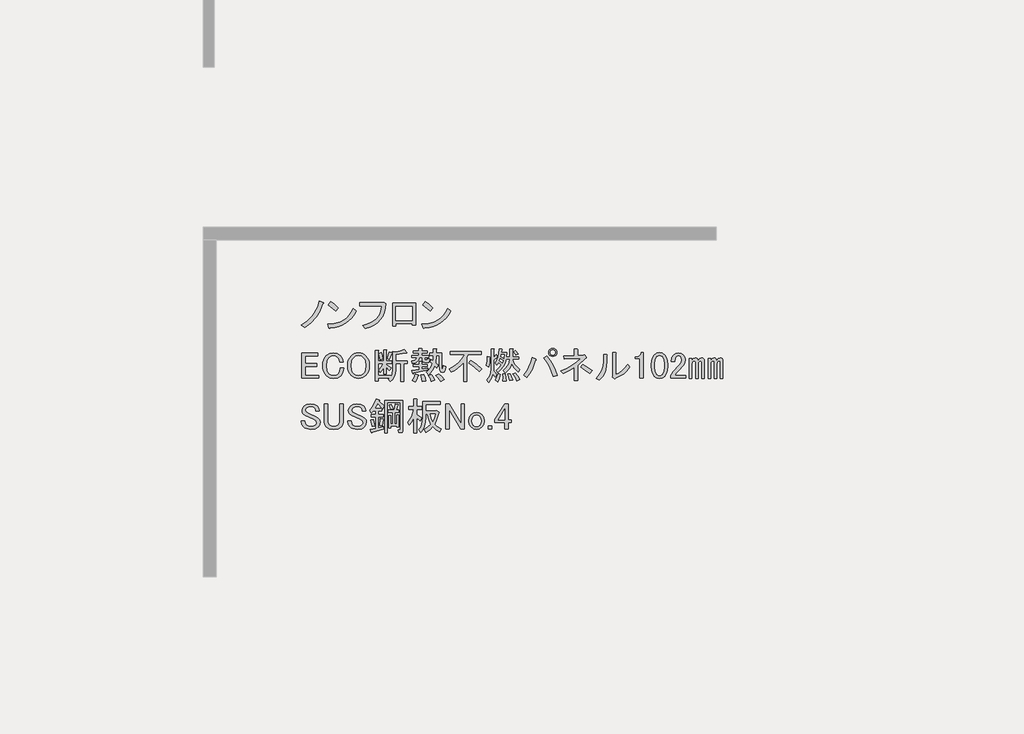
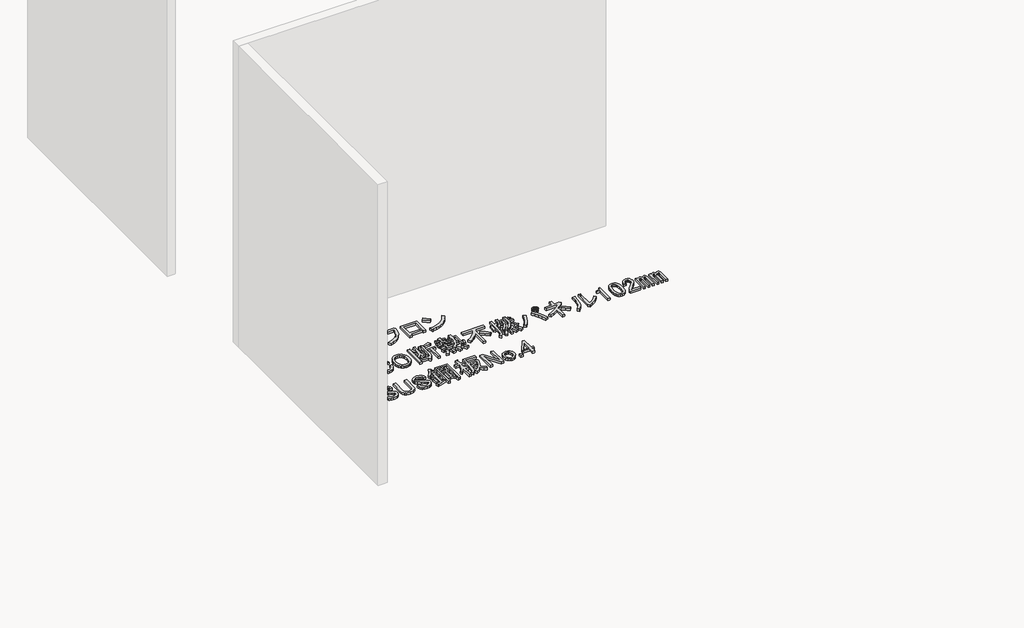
# One storey, part 62 of 117: 1 proxy.
"""IFC4 building model written with IfcOpenShell, lengths in millimetres."""

from ifc_helpers import new_model, si_unit, frame, origin, place, context, project, spatial, polyline, outline, extrude, element, save

model = new_model("IFC4")

# Units and contexts
model_context = context("Model", 3, world=origin())
ifc_project = project(units=[si_unit("LENGTHUNIT", "METRE", prefix="MILLI")], contexts=[model_context])

# Site, building, storey
site = spatial("IfcSite", under=ifc_project)
building = spatial("IfcBuilding", under=site)
storey = spatial("IfcBuildingStorey", under=building, Name="レベル 1", Elevation=500.0)

# Proxy
placement = place(None, origin())
element("IfcBuildingElementProxy", 1, Name="200㎜\u3000MS Pゴシック", ObjectType="200㎜\u3000MS Pゴシック", at=placement, inside=storey, context=model_context, shape_type="SweptSolid", body=[
    extrude(outline(polyline([(48940.1706985, -4603.5496882), (48914.5952502, -4663.3215225), (48886.146156, -4709.2998566), (48844.4782907, -4754.7034615), (48795.3389462, -4792.060858), (48767.7519457, -4770.2211493), (48815.4544673, -4739.7605029), (48855.1107805, -4701.2536481), (48872.4963381, -4677.3305462), (48887.8703435, -4649.2406577), (48901.2327969, -4616.9839827), (48912.5836981, -4580.5605212), (48943.6190736, -4594.3540214), (48946.7800841, -4598.9518548), (48940.1706985, -4603.5496882)])), frame((0.0, 0.0, 500.0), z_axis=(0.0, 0.0, 1.0), x_axis=(1.0, 0.0, 0.0)), (0.0, 0.0, 1.0), 25.0),
    extrude(outline(polyline([(49039.8977052, -4658.7236891), (48981.2753292, -4611.5958967), (49000.8161212, -4587.4572713), (49028.1157571, -4607.2854279), (49061.7374138, -4636.8839804), (49039.8977052, -4658.7236891)])), frame((0.0, 0.0, 500.0), z_axis=(0.0, 0.0, 1.0), x_axis=(1.0, 0.0, 0.0)), (0.0, 0.0, 1.0), 25.0),
    extrude(outline(polyline([(49201.9713328, -4658.7236891), (49185.447869, -4688.465924), (49166.3381239, -4714.4724192), (49144.6420975, -4736.7431748), (49120.3597898, -4755.2781907), (49093.4912008, -4770.077467), (49064.0363306, -4781.1410036), (49031.995179, -4788.4688006), (48997.3677461, -4792.060858), (48991.6204544, -4800.1070664), (48985.8731626, -4794.3597747), (48976.6774958, -4764.4738575), (49012.5082679, -4761.7977748), (49045.2857912, -4755.4937141), (49075.0100658, -4745.5616756), (49101.6810916, -4732.0016591), (49125.2988687, -4714.8136646), (49145.863397, -4693.9976923), (49163.3746766, -4669.553742), (49177.8327074, -4641.4818138), (49201.9713328, -4658.7236891)])), frame((0.0, 0.0, 500.0), z_axis=(0.0, 0.0, 1.0), x_axis=(1.0, 0.0, 0.0)), (0.0, 0.0, 1.0), 25.0),
    extrude(outline(polyline([(49252.7314136, -4773.6695243), (49286.514713, -4763.9889298), (49316.0234641, -4751.6142922), (49341.257667, -4736.5456116), (49362.2173217, -4718.782888), (49378.902428, -4698.3261214), (49391.3129862, -4675.1753118), (49399.4489961, -4649.3304591), (49403.3104577, -4620.7915635), (49230.8917049, -4620.7915635), (49230.8917049, -4595.5034798), (49405.6093744, -4595.5034798), (49421.7017914, -4592.0551047), (49434.3458332, -4603.5496882), (49430.825617, -4640.0449909), (49422.5638851, -4673.0919185), (49409.5606375, -4702.6904711), (49391.8158742, -4728.8406486), (49369.3295952, -4751.542451), (49342.1018005, -4770.7958784), (49310.1324901, -4786.6009308), (49273.421664, -4798.9576081), (49252.7314136, -4773.6695243)])), frame((0.0, 0.0, 500.0), z_axis=(0.0, 0.0, 1.0), x_axis=(1.0, 0.0, 0.0)), (0.0, 0.0, 1.0), 25.0),
    extrude(outline(polyline([(49667.455987, -4772.520066), (49641.0184449, -4772.520066), (49641.0184449, -4759.8760241), (49513.4285679, -4759.8760241), (49513.4285679, -4778.2673577), (49486.9910258, -4778.2673577), (49486.9910258, -4598.9518548), (49667.455987, -4598.9518548), (49667.455987, -4772.520066)]), holes=[polyline([(49513.4285679, -4624.2399386), (49513.4285679, -4734.5879404), (49641.0184449, -4734.5879404), (49641.0184449, -4624.2399386), (49513.4285679, -4624.2399386)])]), frame((0.0, 0.0, 500.0), z_axis=(0.0, 0.0, 1.0), x_axis=(1.0, 0.0, 0.0)), (0.0, 0.0, 1.0), 25.0),
    extrude(outline(polyline([(49943.5099049, -4658.7236891), (49926.9864411, -4688.465924), (49907.876696, -4714.4724192), (49886.1806696, -4736.7431748), (49861.8983619, -4755.2781907), (49835.0297729, -4770.077467), (49805.5749026, -4781.1410036), (49773.5337511, -4788.4688006), (49738.9063182, -4792.060858), (49733.1590264, -4800.1070664), (49727.4117347, -4794.3597747), (49718.2160679, -4764.4738575), (49754.0468399, -4761.7977748), (49786.8243633, -4755.4937141), (49816.5486378, -4745.5616756), (49843.2196637, -4732.0016591), (49866.8374407, -4714.8136646), (49887.4019691, -4693.9976923), (49904.9132486, -4669.553742), (49919.3712795, -4641.4818138), (49943.5099049, -4658.7236891)])), frame((0.0, 0.0, 500.0), z_axis=(0.0, 0.0, 1.0), x_axis=(1.0, 0.0, 0.0)), (0.0, 0.0, 1.0), 25.0),
    extrude(outline(polyline([(49781.4362772, -4658.7236891), (49722.8139013, -4611.5958967), (49742.3546933, -4587.4572713), (49769.6543291, -4607.2854279), (49803.2759859, -4636.8839804), (49781.4362772, -4658.7236891)])), frame((0.0, 0.0, 500.0), z_axis=(0.0, 0.0, 1.0), x_axis=(1.0, 0.0, 0.0)), (0.0, 0.0, 1.0), 25.0),
    extrude(outline(polyline([(48773.4992375, -4992.0551047), (48899.9396562, -4992.0551047), (48899.9396562, -5013.8948134), (48799.9367796, -5013.8948134), (48799.9367796, -5074.816106), (48893.0429061, -5074.816106), (48893.0429061, -5096.6558147), (48799.9367796, -5096.6558147), (48799.9367796, -5166.7727742), (48905.686948, -5166.7727742), (48905.686948, -5188.6124829), (48773.4992375, -5188.6124829), (48773.4992375, -4992.0551047)])), frame((0.0, 0.0, 500.0), z_axis=(0.0, 0.0, 1.0), x_axis=(1.0, 0.0, 0.0)), (0.0, 0.0, 1.0), 25.0),
    extrude(outline(polyline([(48937.7798252, -5090.908523), (48939.5758538, -5066.985421), (48944.9639399, -5045.7922827), (48953.9440832, -5027.3291079), (48966.516284, -5011.5958967), (48991.5170031, -4995.2161152), (49022.8397432, -4989.756188), (49053.5877541, -4994.641386), (49076.8642858, -5009.29698), (49092.6693381, -5032.8608762), (49098.7039944, -5062.1720642), (49071.116994, -5062.1720642), (49066.231796, -5040.9070847), (49056.1740354, -5025.3893969), (49040.9437123, -5015.0442717), (49022.8397432, -5011.5958967), (49003.2989512, -5015.6190009), (48986.0570759, -5027.6883136), (48977.0050914, -5039.3984206), (48970.5393882, -5053.8384911), (48965.3668256, -5090.908523), (48970.5393882, -5127.9785548), (48977.0050914, -5142.4186254), (48986.0570759, -5154.1287323), (49002.7242221, -5165.3359513), (49022.8397432, -5169.0716909), (49043.242629, -5165.9106804), (49058.4729521, -5156.427649), (49070.5422648, -5136.8868571), (49074.5653691, -5110.449315), (49102.1523695, -5110.449315), (49095.8303486, -5145.2204301), (49088.7899162, -5159.3731361), (49079.1632025, -5171.3706076), (49068.3151893, -5179.9197041), (49055.3119417, -5186.0262016), (49022.8397432, -5190.9113996), (48991.5170031, -5185.4514724), (48966.516284, -5169.0716909), (48953.9440832, -5153.4103209), (48944.9639399, -5135.1626695), (48939.5758538, -5114.3287369), (48937.7798252, -5090.908523)])), frame((0.0, 0.0, 500.0), z_axis=(0.0, 0.0, 1.0), x_axis=(1.0, 0.0, 0.0)), (0.0, 0.0, 1.0), 25.0),
    extrude(outline(polyline([(49133.1417667, -5089.7590646), (49134.8659542, -5066.9135799), (49140.0385168, -5046.6543764), (49148.6594544, -5028.9814543), (49160.7287671, -5013.8948134), (49173.4446501, -5003.3341648), (49187.4536738, -4995.7908443), (49202.7558381, -4991.2648521), (49219.3511431, -4989.756188), (49235.946448, -4991.2648521), (49251.2486123, -4995.7908443), (49265.257636, -5003.3341648), (49277.973519, -5013.8948134), (49290.0428317, -5028.9814543), (49298.6637694, -5046.6543764), (49303.836332, -5066.9135799), (49305.5605195, -5089.7590646), (49303.836332, -5112.6045494), (49298.6637694, -5132.8637528), (49290.0428317, -5150.536675), (49277.973519, -5165.6233159), (49265.257636, -5176.1839645), (49251.2486123, -5183.7272849), (49235.946448, -5188.2532772), (49219.3511431, -5189.7619413), (49202.7558381, -5188.2532772), (49187.4536738, -5183.7272849), (49173.4446501, -5176.1839645), (49160.7287671, -5165.6233159), (49148.6594544, -5150.536675), (49140.0385168, -5132.8637528), (49134.8659542, -5112.6045494), (49133.1417667, -5089.7590646)]), holes=[polyline([(49219.3511431, -5011.5958967), (49198.6608927, -5015.9063655), (49180.2695591, -5028.837772), (49171.7204626, -5039.9731498), (49165.6139651, -5053.8384911), (49160.7287671, -5089.7590646), (49165.6139651, -5125.6796381), (49171.7204626, -5139.5449795), (49180.2695591, -5150.6803573), (49198.6608927, -5163.6117637), (49219.3511431, -5167.9222326), (49240.0413934, -5163.6117637), (49258.432727, -5150.6803573), (49266.9818235, -5139.5449795), (49273.088321, -5125.6796381), (49277.973519, -5089.7590646), (49273.088321, -5053.8384911), (49266.9818235, -5039.9731498), (49258.432727, -5028.837772), (49240.0413934, -5015.9063655), (49219.3511431, -5011.5958967)])]), frame((0.0, 0.0, 500.0), z_axis=(0.0, 0.0, 1.0), x_axis=(1.0, 0.0, 0.0)), (0.0, 0.0, 1.0), 25.0),
    extrude(outline(polyline([(49444.3691101, -5035.7345221), (49461.6109854, -4982.8594379), (49482.3012357, -4988.6067296), (49484.0254232, -4991.7677401), (49480.002319, -4994.3540214), (49462.7604437, -5042.6312722), (49444.3691101, -5035.7345221)])), frame((0.0, 0.0, 500.0), z_axis=(0.0, 0.0, 1.0), x_axis=(1.0, 0.0, 0.0)), (0.0, 0.0, 1.0), 25.0),
    extrude(outline(polyline([(49598.3965292, -4987.4572713), (49596.6723417, -4992.0551047), (49589.2008624, -4989.756188), (49512.1871528, -5002.4002299), (49512.1871528, -5051.826939), (49604.143821, -5051.826939), (49604.143821, -5073.6666477), (49573.1084455, -5073.6666477), (49573.1084455, -5213.9005666), (49550.1192785, -5213.9005666), (49550.1192785, -5073.6666477), (49512.1871528, -5073.6666477), (49512.1871528, -5123.0933568), (49509.6008716, -5150.8958807), (49501.8420277, -5175.6810764), (49488.9106212, -5197.448944), (49470.8066522, -5216.1994833), (49453.5647769, -5196.6586914), (49463.9099021, -5187.4630245), (49374.2521506, -5187.4630245), (49374.2521506, -5209.3027332), (49351.2629836, -5209.3027332), (49351.2629836, -4970.215396), (49373.1026922, -4970.215396), (49377.9878902, -4972.5143127), (49374.2521506, -4977.1121461), (49374.2521506, -5052.9763974), (49416.7821096, -5052.9763974), (49416.7821096, -4965.6175626), (49435.1734433, -4965.6175626), (49440.0586413, -4967.9164793), (49436.3229016, -4972.5143127), (49436.3229016, -5052.9763974), (49480.002319, -5052.9763974), (49480.002319, -5071.367731), (49436.3229016, -5071.367731), (49436.3229016, -5080.5633978), (49476.5539439, -5107.0009399), (49462.7604437, -5128.8406486), (49436.3229016, -5102.4031065), (49436.3229016, -5155.2781907), (49416.7821096, -5155.2781907), (49416.7821096, -5107.0009399), (49403.5633386, -5126.8290965), (49389.1951092, -5142.6341488), (49376.5510673, -5124.2428152), (49398.390776, -5100.1041898), (49415.6326513, -5071.367731), (49374.2521506, -5071.367731), (49374.2521506, -5165.6233159), (49471.9561105, -5165.6233159), (49471.9561105, -5179.4168161), (49484.887517, -5155.2781907), (49489.1979858, -5121.9438985), (49489.1979858, -4977.1121461), (49511.0376945, -4982.8594379), (49547.2456326, -4975.3879586), (49577.7062789, -4962.1691875), (49598.3965292, -4987.4572713)])), frame((0.0, 0.0, 500.0), z_axis=(0.0, 0.0, 1.0), x_axis=(1.0, 0.0, 0.0)), (0.0, 0.0, 1.0), 25.0),
    extrude(outline(polyline([(49390.3445675, -5043.7807305), (49377.7005257, -4993.2045631), (49397.2413176, -4986.3078129), (49405.0001615, -5010.4464383), (49409.8853595, -5036.8839804), (49390.3445675, -5043.7807305)])), frame((0.0, 0.0, 500.0), z_axis=(0.0, 0.0, 1.0), x_axis=(1.0, 0.0, 0.0)), (0.0, 0.0, 1.0), 25.0),
    extrude(outline(polyline([(49734.0326148, -5159.8760241), (49744.0903754, -5187.17566), (49748.9755734, -5209.3027332), (49720.2391146, -5215.050025), (49717.6528333, -5193.4976809), (49709.8939894, -5163.3243992), (49734.0326148, -5159.8760241)])), frame((0.0, 0.0, 500.0), z_axis=(0.0, 0.0, 1.0), x_axis=(1.0, 0.0, 0.0)), (0.0, 0.0, 1.0), 25.0),
    extrude(outline(polyline([(49790.356074, -5212.7511083), (49782.022501, -5188.0377537), (49768.5163654, -5166.7727742), (49789.2066157, -5158.7265657), (49806.1611264, -5180.2789098), (49817.9430745, -5203.5554415), (49790.356074, -5212.7511083)])), frame((0.0, 0.0, 500.0), z_axis=(0.0, 0.0, 1.0), x_axis=(1.0, 0.0, 0.0)), (0.0, 0.0, 1.0), 25.0),
    extrude(outline(polyline([(49689.2037391, -5164.4738575), (49692.6521141, -5169.3590555), (49686.9048224, -5172.520066), (49677.1344264, -5198.0955143), (49666.214572, -5217.3489417), (49643.225405, -5205.8543582), (49655.8694469, -5182.290462), (49666.214572, -5155.2781907), (49689.2037391, -5164.4738575)])), frame((0.0, 0.0, 500.0), z_axis=(0.0, 0.0, 1.0), x_axis=(1.0, 0.0, 0.0)), (0.0, 0.0, 1.0), 25.0),
    extrude(outline(polyline([(49721.3885729, -5027.6883136), (49696.1004892, -5027.6883136), (49691.5026558, -5045.1457123), (49681.1575306, -5058.4363245), (49665.0651137, -5067.5601502), (49643.225405, -5072.5171893), (49638.6275716, -5052.9763974), (49663.9156553, -5044.3554597), (49671.3871346, -5037.0276627), (49675.4102388, -5027.6883136), (49639.7770299, -5027.6883136), (49639.7770299, -5009.29698), (49693.8015725, -5009.29698), (49693.8015725, -4992.0551047), (49650.1221551, -4992.0551047), (49650.1221551, -4973.6637711), (49693.8015725, -4973.6637711), (49693.8015725, -4955.2724374), (49715.6412812, -4955.2724374), (49720.5264792, -4957.5713541), (49716.7907395, -4962.1691875), (49716.7907395, -4973.6637711), (49759.3206985, -4973.6637711), (49759.3206985, -4992.0551047), (49716.7907395, -4992.0551047), (49716.7907395, -5009.29698), (49769.6658237, -5009.29698), (49769.6658237, -5027.6883136), (49740.9293649, -5027.6883136), (49740.9293649, -5040.3323555), (49742.3661878, -5045.5049181), (49746.6766567, -5047.2291056), (49757.0217818, -5047.2291056), (49760.7575215, -5044.0680951), (49760.4701569, -5034.5850637), (49780.0109489, -5036.8839804), (49777.137303, -5058.4363245), (49771.8210581, -5063.8244106), (49763.9185319, -5065.6204392), (49739.7799066, -5065.6204392), (49725.9864063, -5060.7352412), (49721.3885729, -5046.0796472), (49721.3885729, -5027.6883136)])), frame((0.0, 0.0, 500.0), z_axis=(0.0, 0.0, 1.0), x_axis=(1.0, 0.0, 0.0)), (0.0, 0.0, 1.0), 25.0),
    extrude(outline(polyline([(49852.4268251, -5010.4464383), (49830.5871164, -5010.4464383), (49825.989283, -5067.9193559), (49845.5300749, -5086.3106896), (49835.1849498, -5108.1503983), (49819.0925328, -5092.0579813), (49799.8391054, -5129.7027424), (49769.6658237, -5162.1749408), (49752.4239484, -5141.4846905), (49767.5105893, -5129.5590601), (49780.585678, -5114.4724192), (49791.6492147, -5096.2247679), (49800.7011992, -5074.816106), (49783.4593239, -5059.8731475), (49791.5055324, -5042.6312722), (49805.2990326, -5052.9763974), (49807.5979493, -5010.4464383), (49780.0109489, -5010.4464383), (49780.0109489, -4992.0551047), (49807.5979493, -4992.0551047), (49807.5979493, -4957.5713541), (49829.437658, -4957.5713541), (49834.322856, -4959.8702708), (49830.5871164, -4964.4681043), (49830.5871164, -4992.0551047), (49871.967617, -4992.0551047), (49871.967617, -5088.6096063), (49875.4159921, -5112.7482317), (49878.6488437, -5114.7597838), (49881.4506484, -5111.5987733), (49885.7611173, -5089.7590646), (49905.3019092, -5096.6558147), (49900.775917, -5123.4525626), (49892.945232, -5139.4731384), (49881.8098542, -5144.7175421), (49867.3697836, -5139.1857738), (49860.8322393, -5131.8579768), (49856.1625647, -5120.219711), (49852.4268251, -5084.0117729), (49852.4268251, -5010.4464383)])), frame((0.0, 0.0, 500.0), z_axis=(0.0, 0.0, 1.0), x_axis=(1.0, 0.0, 0.0)), (0.0, 0.0, 1.0), 25.0),
    extrude(outline(polyline([(49651.2716134, -5149.5308989), (49649.2600613, -5154.4160969), (49645.5243217, -5152.979274), (49639.7770299, -5128.8406486), (49694.9510308, -5120.7944401), (49694.9510308, -5097.8052731), (49651.2716134, -5097.8052731), (49651.2716134, -5079.4139395), (49694.9510308, -5079.4139395), (49694.9510308, -5056.4247724), (49713.3423645, -5056.4247724), (49718.2275625, -5058.7236891), (49714.4918228, -5063.3215225), (49714.4918228, -5079.4139395), (49759.3206985, -5079.4139395), (49759.3206985, -5097.8052731), (49714.4918228, -5097.8052731), (49714.4918228, -5117.3460651), (49765.0679903, -5108.1503983), (49765.0679903, -5124.2428152), (49651.2716134, -5149.5308989)])), frame((0.0, 0.0, 500.0), z_axis=(0.0, 0.0, 1.0), x_axis=(1.0, 0.0, 0.0)), (0.0, 0.0, 1.0), 25.0),
    extrude(outline(polyline([(49848.97845, -5154.1287323), (49873.6918046, -5175.3937119), (49892.6578674, -5200.1070664), (49866.2203253, -5215.050025), (49846.9668979, -5185.4514724), (49828.2881997, -5165.6233159), (49848.97845, -5154.1287323)])), frame((0.0, 0.0, 500.0), z_axis=(0.0, 0.0, 1.0), x_axis=(1.0, 0.0, 0.0)), (0.0, 0.0, 1.0), 25.0),
    extrude(outline(polyline([(50167.3784135, -5138.0363154), (50128.2968295, -5099.8168252), (50086.9163289, -5070.2182726), (50103.0087458, -5049.5280223), (50146.6881632, -5077.6897519), (50188.0686638, -5116.1966067), (50167.3784135, -5138.0363154)])), frame((0.0, 0.0, 500.0), z_axis=(0.0, 0.0, 1.0), x_axis=(1.0, 0.0, 0.0)), (0.0, 0.0, 1.0), 25.0),
    extrude(outline(polyline([(49940.9351182, -4977.1121461), (50182.3213721, -4977.1121461), (50182.3213721, -5002.4002299), (50082.3184955, -5002.4002299), (50071.9733703, -5026.5388553), (50071.9733703, -5212.7511083), (50045.5358282, -5212.7511083), (50045.5358282, -5065.6204392), (50024.7018956, -5088.8969709), (50001.2816816, -5109.2998566), (49975.2751864, -5126.8290965), (49946.6824099, -5141.4846905), (49930.589993, -5115.0471484), (49970.174465, -5094.6442626), (50003.8679629, -5069.0688143), (50031.6704868, -5038.3208034), (50053.5820367, -5002.4002299), (49940.9351182, -5002.4002299), (49940.9351182, -4977.1121461)])), frame((0.0, 0.0, 500.0), z_axis=(0.0, 0.0, 1.0), x_axis=(1.0, 0.0, 0.0)), (0.0, 0.0, 1.0), 25.0),
    extrude(outline(polyline([(50354.7401249, -5211.6016499), (50355.3148541, -5184.5893787), (50352.4412082, -5156.427649), (50371.9820002, -5155.2781907), (50378.3040211, -5181.4283682), (50378.8787503, -5209.3027332), (50354.7401249, -5211.6016499)])), frame((0.0, 0.0, 500.0), z_axis=(0.0, 0.0, 1.0), x_axis=(1.0, 0.0, 0.0)), (0.0, 0.0, 1.0), 25.0),
    extrude(outline(polyline([(50335.1993329, -5159.8760241), (50326.5783953, -5190.3366704), (50312.2101659, -5217.3489417), (50292.6693739, -5204.7048998), (50306.7502387, -5179.9915453), (50316.8079993, -5151.8298156), (50335.1993329, -5159.8760241)])), frame((0.0, 0.0, 500.0), z_axis=(0.0, 0.0, 1.0), x_axis=(1.0, 0.0, 0.0)), (0.0, 0.0, 1.0), 25.0),
    extrude(outline(polyline([(50250.1394149, -5021.9410219), (50254.7372483, -5024.2399386), (50250.1394149, -5028.837772), (50248.9899565, -5068.4940851), (50243.2426647, -5102.4031065), (50224.8513311, -5089.7590646), (50230.5986229, -5055.2753141), (50231.7480812, -5018.4926468), (50250.1394149, -5021.9410219)])), frame((0.0, 0.0, 500.0), z_axis=(0.0, 0.0, 1.0), x_axis=(1.0, 0.0, 0.0)), (0.0, 0.0, 1.0), 25.0),
    extrude(outline(polyline([(50301.8650407, -5003.5496882), (50311.0607075, -5020.7915635), (50312.4975305, -5026.8262199), (50307.6123325, -5026.5388553), (50281.1747904, -5047.2291056), (50281.1747904, -5131.1395653), (50294.9682906, -5143.4962426), (50306.4628741, -5159.8760241), (50293.8188322, -5180.5662744), (50275.4274986, -5155.2781907), (50263.6455505, -5191.1987642), (50242.0932064, -5220.7973168), (50227.1502478, -5202.4059831), (50242.2368887, -5183.6554438), (50253.0130607, -5163.0370346), (50259.478764, -5140.5507556), (50261.6339984, -5116.1966067), (50261.6339984, -4958.7208125), (50280.025332, -4958.7208125), (50284.91053, -4961.0197292), (50281.1747904, -4965.6175626), (50281.1747904, -5024.2399386), (50301.8650407, -5003.5496882)])), frame((0.0, 0.0, 500.0), z_axis=(0.0, 0.0, 1.0), x_axis=(1.0, 0.0, 0.0)), (0.0, 0.0, 1.0), 25.0),
    extrude(outline(polyline([(50452.4440848, -4972.5143127), (50474.2837935, -4996.6529381), (50457.0419182, -5008.1475216), (50450.4325327, -4996.6529381), (50437.5011262, -4982.8594379), (50452.4440848, -4972.5143127)])), frame((0.0, 0.0, 500.0), z_axis=(0.0, 0.0, 1.0), x_axis=(1.0, 0.0, 0.0)), (0.0, 0.0, 1.0), 25.0),
    extrude(outline(polyline([(50462.78921, -5209.3027332), (50449.5704389, -5181.1410036), (50432.9032928, -5156.427649), (50451.2946265, -5148.3814406), (50470.2606893, -5171.3706076), (50485.778377, -5198.9576081), (50462.78921, -5209.3027332)])), frame((0.0, 0.0, 500.0), z_axis=(0.0, 0.0, 1.0), x_axis=(1.0, 0.0, 0.0)), (0.0, 0.0, 1.0), 25.0),
    extrude(outline(polyline([(50413.3625008, -5154.1287323), (50431.7538345, -5203.5554415), (50407.6152091, -5208.1532749), (50393.8217089, -5157.5771074), (50413.3625008, -5154.1287323)])), frame((0.0, 0.0, 500.0), z_axis=(0.0, 0.0, 1.0), x_axis=(1.0, 0.0, 0.0)), (0.0, 0.0, 1.0), 25.0),
    extrude(outline(polyline([(50474.2837935, -5139.1857738), (50443.5357826, -5108.7251274), (50422.5581677, -5074.816106), (50414.1527535, -5096.9431793), (50402.7300111, -5116.1966067), (50388.2899405, -5132.5763882), (50370.8325418, -5146.0825239), (50357.0390416, -5127.6911902), (50377.8729742, -5108.7969686), (50393.2469797, -5087.7475125), (50403.161058, -5064.542822), (50407.6152091, -5039.1828971), (50378.8787503, -5039.1828971), (50370.904383, -5069.7872258), (50357.3264062, -5097.2305439), (50338.1448199, -5121.5128516), (50313.3596242, -5142.6341488), (50300.7155823, -5126.5417319), (50326.5783953, -5104.9893878), (50342.096083, -5084.0117729), (50320.2563743, -5064.4709809), (50306.4628741, -5085.1612312), (50292.6693739, -5070.2182726), (50305.0978923, -5051.1803687), (50314.7964472, -5026.2514907), (50321.7650384, -4995.4316386), (50326.0036661, -4958.7208125), (50346.6939164, -4961.0197292), (50350.1422915, -4963.6060105), (50344.3949997, -4966.767021), (50342.096083, -4985.1583546), (50385.7755004, -4985.1583546), (50382.3271253, -5020.7915635), (50407.6152091, -5020.7915635), (50407.6152091, -4958.7208125), (50429.4549178, -4958.7208125), (50434.3401158, -4961.0197292), (50430.6043761, -4965.6175626), (50430.6043761, -5020.7915635), (50480.0310853, -5020.7915635), (50480.0310853, -5039.1828971), (50430.6043761, -5039.1828971), (50437.1419205, -5060.9507647), (50448.7083452, -5081.4254916), (50465.3036501, -5100.6070778), (50486.9278354, -5118.4955234), (50474.2837935, -5139.1857738)]), holes=[polyline([(50350.1422915, -5069.0688143), (50357.0390416, -5049.5280223), (50331.7509579, -5033.4356054), (50326.0036661, -5050.6774807), (50350.1422915, -5069.0688143)]), polyline([(50339.7971663, -5003.5496882), (50336.3487913, -5019.6421052), (50361.636875, -5033.4356054), (50366.2347084, -5003.5496882), (50339.7971663, -5003.5496882)])]), frame((0.0, 0.0, 500.0), z_axis=(0.0, 0.0, 1.0), x_axis=(1.0, 0.0, 0.0)), (0.0, 0.0, 1.0), 25.0),
    extrude(outline(polyline([(50699.5776305, -5012.745355), (50726.230696, -5049.4561812), (50748.7169751, -5087.1727833), (50767.0364675, -5125.8951616), (50781.1891735, -5165.6233159), (50750.153798, -5175.968441), (50734.7079514, -5132.8637528), (50717.1068704, -5094.356898), (50697.3505549, -5060.4478766), (50675.4390051, -5031.1366887), (50699.5776305, -5012.745355)])), frame((0.0, 0.0, 500.0), z_axis=(0.0, 0.0, 1.0), x_axis=(1.0, 0.0, 0.0)), (0.0, 0.0, 1.0), 25.0),
    extrude(outline(polyline([(50612.2187958, -5039.1828971), (50616.2419, -5044.6428243), (50609.919879, -5049.5280223), (50597.9942486, -5084.9457078), (50582.9076078, -5118.782888), (50564.6599564, -5151.039563), (50543.2512946, -5181.7157328), (50516.8137525, -5164.4738575), (50540.018443, -5133.0074351), (50559.056347, -5099.5294606), (50573.9274644, -5064.039934), (50584.6317953, -5026.5388553), (50612.2187958, -5039.1828971)])), frame((0.0, 0.0, 500.0), z_axis=(0.0, 0.0, 1.0), x_axis=(1.0, 0.0, 0.0)), (0.0, 0.0, 1.0), 25.0),
    extrude(outline(polyline([(50745.5559646, -5018.4926468), (50732.9119227, -5016.1937301), (50722.5667975, -5009.29698), (50715.6700474, -4998.9518548), (50713.3711307, -4986.3078129), (50715.6700474, -4973.6637711), (50722.5667975, -4963.3186459), (50732.9119227, -4956.4218958), (50745.5559646, -4954.1229791), (50758.2000065, -4956.4218958), (50768.5451316, -4963.3186459), (50775.4418817, -4973.6637711), (50777.7407984, -4986.3078129), (50775.4418817, -4998.9518548), (50768.5451316, -5009.29698), (50758.2000065, -5016.1937301), (50745.5559646, -5018.4926468)]), holes=[polyline([(50745.5559646, -5006.9980633), (50753.8895376, -5005.5612403), (50760.4989232, -5001.2507715), (50764.809392, -4994.641386), (50766.2462149, -4986.3078129), (50764.809392, -4977.9742399), (50760.4989232, -4971.3648544), (50753.8895376, -4967.0543855), (50745.5559646, -4965.6175626), (50737.2223915, -4967.0543855), (50730.613006, -4971.3648544), (50726.3025372, -4977.9742399), (50724.8657143, -4986.3078129), (50726.3025372, -4994.641386), (50730.613006, -5001.2507715), (50737.2223915, -5005.5612403), (50745.5559646, -5006.9980633)])]), frame((0.0, 0.0, 500.0), z_axis=(0.0, 0.0, 1.0), x_axis=(1.0, 0.0, 0.0)), (0.0, 0.0, 1.0), 25.0),
    extrude(outline(polyline([(50989.2411352, -5008.1475216), (50996.1378853, -5005.8486049), (51008.7819272, -5023.0904802), (51009.9313856, -5029.1251366), (51004.1840938, -5031.1366887), (50940.9638844, -5087.4601479), (50940.9638844, -5208.1532749), (50914.5263423, -5208.1532749), (50914.5263423, -5105.8514816), (50874.2953, -5129.9901069), (50829.4664243, -5151.8298156), (50809.9256323, -5131.1395653), (50855.4729195, -5111.6706145), (50896.7097379, -5088.8969709), (50933.6360874, -5062.8186345), (50966.2519682, -5033.4356054), (50836.3631744, -5039.1828971), (50832.9147993, -5013.8948134), (50914.5263423, -5011.5958967), (50914.5263423, -4959.8702708), (50937.5155094, -4959.8702708), (50943.5501657, -4963.3186459), (50940.9638844, -4969.0659377), (50940.9638844, -5010.4464383), (50989.2411352, -5008.1475216)])), frame((0.0, 0.0, 500.0), z_axis=(0.0, 0.0, 1.0), x_axis=(1.0, 0.0, 0.0)), (0.0, 0.0, 1.0), 25.0),
    extrude(outline(polyline([(51035.2194693, -5151.8298156), (50998.1494375, -5122.5186277), (50965.1025098, -5101.2536481), (50982.3443851, -5079.4139395), (51021.1386045, -5102.6904711), (51054.7602613, -5128.8406486), (51035.2194693, -5151.8298156)])), frame((0.0, 0.0, 500.0), z_axis=(0.0, 0.0, 1.0), x_axis=(1.0, 0.0, 0.0)), (0.0, 0.0, 1.0), 25.0),
    extrude(outline(polyline([(51242.2139293, -5158.7265657), (51266.9991251, -5146.5135708), (51290.7785447, -5129.4153778), (51313.5521883, -5107.4319868), (51335.3200559, -5080.5633978), (51351.4124728, -5102.4031065), (51328.1359412, -5130.2056304), (51301.9857636, -5153.8413678), (51272.9619403, -5173.3103186), (51241.064471, -5188.6124829), (51231.8688042, -5193.2103163), (51213.4774705, -5179.4168161), (51215.7763872, -5173.6695243), (51215.7763872, -4988.6067296), (51239.9150126, -4988.6067296), (51245.6623044, -4992.0551047), (51242.2139293, -4997.8023965), (51242.2139293, -5158.7265657)])), frame((0.0, 0.0, 500.0), z_axis=(0.0, 0.0, 1.0), x_axis=(1.0, 0.0, 0.0)), (0.0, 0.0, 1.0), 25.0),
    extrude(outline(polyline([(51088.1865102, -5189.7619413), (51113.3309116, -5160.5225944), (51131.2911984, -5127.9785548), (51142.0673704, -5092.1298225), (51145.6594278, -5052.9763974), (51145.6594278, -5001.2507715), (51169.7980532, -5001.2507715), (51175.5453449, -5004.6991466), (51172.0969699, -5010.4464383), (51172.0969699, -5051.826939), (51168.2893891, -5097.5897496), (51156.8666467, -5138.32368), (51137.8287427, -5174.0287301), (51111.1756772, -5204.7048998), (51088.1865102, -5189.7619413)])), frame((0.0, 0.0, 500.0), z_axis=(0.0, 0.0, 1.0), x_axis=(1.0, 0.0, 0.0)), (0.0, 0.0, 1.0), 25.0),
    extrude(outline(polyline([(51430.7250991, -5011.5958967), (51438.7713075, -5000.6760423), (51442.2196826, -4988.6067296), (51456.0131828, -4988.6067296), (51456.0131828, -5187.4630245), (51429.5756407, -5187.4630245), (51429.5756407, -5034.5850637), (51395.0918902, -5034.5850637), (51395.0918902, -5020.7915635), (51405.4370153, -5020.7915635), (51419.8052447, -5018.4926468), (51430.7250991, -5011.5958967)])), frame((0.0, 0.0, 500.0), z_axis=(0.0, 0.0, 1.0), x_axis=(1.0, 0.0, 0.0)), (0.0, 0.0, 1.0), 25.0),
    extrude(outline(polyline([(51521.5323089, -5078.2644811), (51522.9691318, -5054.7005849), (51527.2796006, -5034.5850637), (51534.4637153, -5017.9179176), (51544.5214759, -5004.6991466), (51562.625445, -4992.6298339), (51584.7525182, -4988.6067296), (51606.8795915, -4992.6298339), (51624.9835606, -5004.6991466), (51635.0413212, -5017.9179176), (51642.2254359, -5034.5850637), (51646.5359047, -5054.7005849), (51647.9727276, -5078.2644811), (51647.9727276, -5101.2536481), (51646.5359047, -5124.3146563), (51642.2254359, -5144.0709718), (51635.0413212, -5160.5225944), (51624.9835606, -5173.6695243), (51606.8795915, -5185.738837), (51584.7525182, -5189.7619413), (51562.625445, -5185.738837), (51544.5214759, -5173.6695243), (51534.4637153, -5160.5225944), (51527.2796006, -5144.0709718), (51522.9691318, -5124.3146563), (51521.5323089, -5101.2536481), (51521.5323089, -5078.2644811)]), holes=[polyline([(51584.7525182, -5010.4464383), (51573.8326639, -5012.745355), (51564.0622679, -5019.6421052), (51557.5247235, -5028.7659308), (51552.855049, -5041.1944493), (51549.1193093, -5075.9655644), (51549.1193093, -5102.4031065), (51553.1424136, -5136.5994925), (51558.1712939, -5149.1716932), (51565.2117263, -5158.7265657), (51574.6947577, -5165.6233159), (51584.7525182, -5167.9222326), (51595.6723726, -5165.6233159), (51605.4427686, -5158.7265657), (51611.980313, -5149.6027401), (51616.6499875, -5137.1742216), (51620.3857272, -5102.4031065), (51620.3857272, -5075.9655644), (51616.6499875, -5041.1944493), (51611.980313, -5028.7659308), (51605.4427686, -5019.6421052), (51595.6723726, -5012.745355), (51584.7525182, -5010.4464383)])]), frame((0.0, 0.0, 500.0), z_axis=(0.0, 0.0, 1.0), x_axis=(1.0, 0.0, 0.0)), (0.0, 0.0, 1.0), 25.0),
    extrude(outline(polyline([(51677.8586448, -5058.7236891), (51682.4564782, -5027.400949), (51696.2499784, -5004.6991466), (51712.6297599, -4993.4919276), (51731.8831873, -4989.756188), (51754.5849898, -4993.4919276), (51772.1142296, -5004.6991466), (51783.3214486, -5021.3662927), (51787.0571882, -5041.4818138), (51782.7467194, -5067.3446268), (51769.8153129, -5089.7590646), (51736.4810207, -5127.6911902), (51718.0896871, -5148.3814406), (51704.2961869, -5166.7727742), (51790.5055633, -5166.7727742), (51790.5055633, -5188.6124829), (51673.2608114, -5188.6124829), (51673.2608114, -5169.0716909), (51679.2954677, -5155.2781907), (51692.8016033, -5136.8868571), (51739.9293958, -5085.1612312), (51754.5849898, -5063.8962517), (51759.4701878, -5041.4818138), (51757.1712711, -5028.837772), (51750.2745209, -5018.4926468), (51742.5156771, -5013.3200842), (51733.0326457, -5011.5958967), (51724.411708, -5013.3200842), (51716.9402287, -5018.4926468), (51707.4571973, -5034.8724283), (51704.2961869, -5058.7236891), (51677.8586448, -5058.7236891)])), frame((0.0, 0.0, 500.0), z_axis=(0.0, 0.0, 1.0), x_axis=(1.0, 0.0, 0.0)), (0.0, 0.0, 1.0), 25.0),
    extrude(outline(polyline([(51839.9322724, -5189.7619413), (51820.3914804, -5189.7619413), (51820.3914804, -5032.286147), (51839.9322724, -5032.286147), (51839.9322724, -5049.5280223), (51852.0015851, -5034.0103346), (51865.2203561, -5028.837772), (51874.416023, -5030.2745949), (51881.3127731, -5034.5850637), (51888.2095232, -5048.378564), (51901.1409296, -5033.72297), (51914.6470653, -5028.837772), (51922.9806383, -5030.2745949), (51929.5900239, -5034.5850637), (51934.7625864, -5043.2060014), (51936.486774, -5055.2753141), (51936.486774, -5189.7619413), (51916.945982, -5189.7619413), (51916.945982, -5065.6204392), (51914.3597007, -5056.1374078), (51906.6008568, -5052.9763974), (51896.2557317, -5057.5742308), (51890.2210753, -5066.1951684), (51888.2095232, -5075.9655644), (51888.2095232, -5189.7619413), (51868.6687312, -5189.7619413), (51868.6687312, -5065.6204392), (51866.0824499, -5056.1374078), (51858.323606, -5052.9763974), (51847.9784809, -5057.5742308), (51841.9438245, -5066.1951684), (51839.9322724, -5075.9655644), (51839.9322724, -5189.7619413)])), frame((0.0, 0.0, 500.0), z_axis=(0.0, 0.0, 1.0), x_axis=(1.0, 0.0, 0.0)), (0.0, 0.0, 1.0), 25.0),
    extrude(outline(polyline([(52061.7777343, -5028.837772), (52070.1113074, -5030.2745949), (52076.7206929, -5034.5850637), (52081.8932555, -5043.2060014), (52083.617443, -5055.2753141), (52083.617443, -5189.7619413), (52064.0766511, -5189.7619413), (52064.0766511, -5065.6204392), (52061.4903698, -5056.1374078), (52053.7315259, -5052.9763974), (52043.3864007, -5057.5742308), (52037.3517444, -5066.1951684), (52035.3401922, -5075.9655644), (52035.3401922, -5189.7619413), (52015.7994003, -5189.7619413), (52015.7994003, -5065.6204392), (52013.213119, -5056.1374078), (52005.4542751, -5052.9763974), (51995.1091499, -5057.5742308), (51989.0744936, -5066.1951684), (51987.0629415, -5075.9655644), (51987.0629415, -5189.7619413), (51967.5221495, -5189.7619413), (51967.5221495, -5032.286147), (51987.0629415, -5032.286147), (51987.0629415, -5049.5280223), (51999.1322542, -5034.0103346), (52012.3510252, -5028.837772), (52021.546692, -5030.2745949), (52028.4434421, -5034.5850637), (52035.3401922, -5048.378564), (52048.2715987, -5033.72297), (52061.7777343, -5028.837772)])), frame((0.0, 0.0, 500.0), z_axis=(0.0, 0.0, 1.0), x_axis=(1.0, 0.0, 0.0)), (0.0, 0.0, 1.0), 25.0),
    extrude(outline(polyline([(48775.7981542, -5443.7807305), (48779.8212584, -5423.3778448), (48791.8905711, -5405.8486049), (48812.2934569, -5393.7792922), (48841.3172803, -5389.756188), (48872.6400204, -5394.3540214), (48895.3418228, -5408.1475216), (48907.4111355, -5425.6767615), (48911.4342397, -5446.0796472), (48884.9966976, -5446.0796472), (48882.6977809, -5433.4356054), (48875.8010308, -5423.0904802), (48862.5822598, -5415.3316363), (48843.616197, -5412.745355), (48823.2133112, -5415.0442717), (48810.2819048, -5421.9410219), (48804.2472484, -5430.5619595), (48802.2356963, -5440.3323555), (48806.8335297, -5455.2753141), (48827.52378, -5466.7698976), (48887.2956143, -5493.2074397), (48904.5374896, -5504.7020232), (48914.020521, -5518.4955234), (48917.1815315, -5534.5879404), (48913.1584273, -5555.8529199), (48901.0891146, -5573.6695243), (48891.1031951, -5581.2128448), (48878.3873121, -5586.6009308), (48844.7656553, -5590.9113996), (48811.1439985, -5585.738837), (48797.5660217, -5579.2731338), (48786.1432794, -5570.2211493), (48774.9360604, -5551.8298156), (48771.2003208, -5526.5417319), (48797.6378629, -5526.5417319), (48799.9367796, -5544.3583363), (48806.8335297, -5556.427649), (48822.9259466, -5565.9106804), (48845.9151137, -5569.0716909), (48866.8927286, -5566.198045), (48881.5483226, -5557.5771074), (48888.4450727, -5548.3814406), (48890.7439894, -5539.1857738), (48889.0198019, -5529.7027424), (48883.8472393, -5521.9438985), (48865.4559057, -5510.449315), (48835.5699885, -5496.6558147), (48802.2356963, -5481.7128562), (48786.1432794, -5471.367731), (48778.3844355, -5459.2984183), (48775.7981542, -5443.7807305)])), frame((0.0, 0.0, 500.0), z_axis=(0.0, 0.0, 1.0), x_axis=(1.0, 0.0, 0.0)), (0.0, 0.0, 1.0), 25.0),
    extrude(outline(polyline([(48951.2054987, -5392.0551047), (48977.6430408, -5392.0551047), (48977.6430408, -5529.9901069), (48980.2293221, -5544.6457009), (48987.988166, -5556.427649), (49003.5058537, -5565.9106804), (49024.7708332, -5569.0716909), (49046.0358128, -5565.9106804), (49061.5535005, -5556.427649), (49069.3123444, -5544.6457009), (49071.8986257, -5529.9901069), (49071.8986257, -5392.0551047), (49098.3361678, -5392.0551047), (49098.3361678, -5531.1395653), (49094.3130635, -5554.1287323), (49082.2437508, -5572.520066), (49071.7549434, -5580.5662744), (49058.6798546, -5586.3135662), (49024.7708332, -5590.9113996), (48990.8618119, -5586.3135662), (48977.7867231, -5580.5662744), (48967.2979156, -5572.520066), (48955.2286029, -5554.1287323), (48951.2054987, -5531.1395653), (48951.2054987, -5392.0551047)])), frame((0.0, 0.0, 500.0), z_axis=(0.0, 0.0, 1.0), x_axis=(1.0, 0.0, 0.0)), (0.0, 0.0, 1.0), 25.0),
    extrude(outline(polyline([(49140.6822135, -5443.7807305), (49144.7053177, -5423.3778448), (49156.7746304, -5405.8486049), (49177.1775161, -5393.7792922), (49206.2013395, -5389.756188), (49237.5240796, -5394.3540214), (49260.2258821, -5408.1475216), (49272.2951948, -5425.6767615), (49276.318299, -5446.0796472), (49249.8807569, -5446.0796472), (49247.5818402, -5433.4356054), (49240.6850901, -5423.0904802), (49227.466319, -5415.3316363), (49208.5002562, -5412.745355), (49188.0973705, -5415.0442717), (49175.165964, -5421.9410219), (49169.1313077, -5430.5619595), (49167.1197556, -5440.3323555), (49171.717589, -5455.2753141), (49192.4078393, -5466.7698976), (49252.1796736, -5493.2074397), (49269.4215489, -5504.7020232), (49278.9045803, -5518.4955234), (49282.0655908, -5534.5879404), (49278.0424865, -5555.8529199), (49265.9731738, -5573.6695243), (49255.9872544, -5581.2128448), (49243.2713714, -5586.6009308), (49209.6497146, -5590.9113996), (49176.0280578, -5585.738837), (49162.450081, -5579.2731338), (49151.0273386, -5570.2211493), (49139.8201197, -5551.8298156), (49136.0843801, -5526.5417319), (49162.5219222, -5526.5417319), (49164.8208389, -5544.3583363), (49171.717589, -5556.427649), (49187.8100059, -5565.9106804), (49210.7991729, -5569.0716909), (49231.7767879, -5566.198045), (49246.4323819, -5557.5771074), (49253.329132, -5548.3814406), (49255.6280487, -5539.1857738), (49253.9038611, -5529.7027424), (49248.7312986, -5521.9438985), (49230.3399649, -5510.449315), (49200.4540478, -5496.6558147), (49167.1197556, -5481.7128562), (49151.0273386, -5471.367731), (49143.2684948, -5459.2984183), (49140.6822135, -5443.7807305)])), frame((0.0, 0.0, 500.0), z_axis=(0.0, 0.0, 1.0), x_axis=(1.0, 0.0, 0.0)), (0.0, 0.0, 1.0), 25.0),
    extrude(outline(polyline([(49410.3451429, -5431.1366887), (49368.9646422, -5387.4572713), (49347.1249335, -5426.5388553), (49402.2989344, -5426.5388553), (49402.2989344, -5444.9301889), (49375.8613923, -5444.9301889), (49375.8613923, -5473.6666477), (49413.7935179, -5473.6666477), (49413.7935179, -5492.0579813), (49375.8613923, -5492.0579813), (49375.8613923, -5579.4168161), (49414.9429763, -5569.0716909), (49417.241893, -5588.6124829), (49325.2852248, -5613.9005666), (49322.9863081, -5619.6478584), (49318.3884747, -5616.1994833), (49311.4917246, -5593.2103163), (49356.3206003, -5584.0146495), (49356.3206003, -5492.0579813), (49318.3884747, -5492.0579813), (49318.3884747, -5473.6666477), (49356.3206003, -5473.6666477), (49356.3206003, -5444.9301889), (49334.4808916, -5444.9301889), (49319.537933, -5463.3215225), (49306.8938912, -5442.6312722), (49335.0556208, -5404.9865112), (49359.7689754, -5354.1229791), (49381.6086841, -5359.8702708), (49385.0570591, -5363.6060105), (49379.3097674, -5365.6175626), (49378.160309, -5369.0659377), (49422.9891847, -5406.9980633), (49410.3451429, -5431.1366887)])), frame((0.0, 0.0, 500.0), z_axis=(0.0, 0.0, 1.0), x_axis=(1.0, 0.0, 0.0)), (0.0, 0.0, 1.0), 25.0),
    extrude(outline(polyline([(49478.1631856, -5394.3540214), (49485.3473003, -5409.5843446), (49490.8072275, -5429.9872303), (49473.5653522, -5435.7345221), (49462.0707687, -5398.9518548), (49478.1631856, -5394.3540214)])), frame((0.0, 0.0, 500.0), z_axis=(0.0, 0.0, 1.0), x_axis=(1.0, 0.0, 0.0)), (0.0, 0.0, 1.0), 25.0),
    extrude(outline(polyline([(49531.0382698, -5395.5034798), (49533.6245511, -5398.9518548), (49527.5898948, -5402.4002299), (49514.9458529, -5440.3323555), (49535.6361032, -5440.3323555), (49535.6361032, -5458.7236891), (49504.6007277, -5458.7236891), (49504.6007277, -5547.2319822), (49519.5436863, -5547.2319822), (49519.5436863, -5479.4139395), (49535.6361032, -5479.4139395), (49535.6361032, -5573.6695243), (49519.5436863, -5573.6695243), (49519.5436863, -5565.6233159), (49473.5653522, -5565.6233159), (49473.5653522, -5578.2673577), (49457.4729353, -5578.2673577), (49457.4729353, -5481.7128562), (49473.5653522, -5481.7128562), (49473.5653522, -5547.2319822), (49488.5083108, -5547.2319822), (49488.5083108, -5458.7236891), (49452.8751019, -5458.7236891), (49452.8751019, -5440.3323555), (49498.853436, -5440.3323555), (49509.1985611, -5390.9056463), (49531.0382698, -5395.5034798)])), frame((0.0, 0.0, 500.0), z_axis=(0.0, 0.0, 1.0), x_axis=(1.0, 0.0, 0.0)), (0.0, 0.0, 1.0), 25.0),
    extrude(outline(polyline([(49425.2881014, -5362.1691875), (49565.5220204, -5362.1691875), (49565.5220204, -5602.4059831), (49561.7862807, -5613.6132021), (49550.5790618, -5617.3489417), (49534.4866449, -5617.3489417), (49529.8888115, -5595.509233), (49541.383395, -5595.509233), (49544.83177, -5594.3597747), (49545.9812284, -5590.9113996), (49545.9812284, -5380.5605212), (49444.8288934, -5380.5605212), (49444.8288934, -5619.6478584), (49425.2881014, -5619.6478584), (49425.2881014, -5362.1691875)])), frame((0.0, 0.0, 500.0), z_axis=(0.0, 0.0, 1.0), x_axis=(1.0, 0.0, 0.0)), (0.0, 0.0, 1.0), 25.0),
    extrude(outline(polyline([(49413.7935179, -5510.449315), (49416.3797992, -5513.6103254), (49412.6440596, -5516.1966067), (49404.5978511, -5563.3243992), (49386.2065175, -5561.0254825), (49391.9538092, -5507.0009399), (49413.7935179, -5510.449315)])), frame((0.0, 0.0, 500.0), z_axis=(0.0, 0.0, 1.0), x_axis=(1.0, 0.0, 0.0)), (0.0, 0.0, 1.0), 25.0),
    extrude(outline(polyline([(49336.7798083, -5511.5987733), (49348.2743918, -5563.3243992), (49327.5841415, -5569.0716909), (49316.089558, -5517.3460651), (49336.7798083, -5511.5987733)])), frame((0.0, 0.0, 500.0), z_axis=(0.0, 0.0, 1.0), x_axis=(1.0, 0.0, 0.0)), (0.0, 0.0, 1.0), 25.0),
    extrude(outline(polyline([(49736.7913148, -5590.9113996), (49765.5277736, -5573.6695243), (49787.3674823, -5551.8298156), (49769.5508779, -5509.8745858), (49759.7804819, -5469.0688143), (49747.13644, -5469.0688143), (49747.13644, -5493.2074397), (49744.693841, -5534.9471461), (49737.366044, -5569.3590555), (49725.153049, -5596.4431679), (49708.054856, -5616.1994833), (49694.2613558, -5593.2103163), (49707.3364446, -5575.8247587), (49716.6757937, -5553.5540032), (49722.2794031, -5526.3980496), (49724.147273, -5494.356898), (49724.147273, -5373.6637711), (49860.9328169, -5373.6637711), (49860.9328169, -5395.5034798), (49747.13644, -5395.5034798), (49747.13644, -5447.2291056), (49826.4490663, -5447.2291056), (49832.1963581, -5441.4818138), (49851.73715, -5455.2753141), (49853.173973, -5459.0110537), (49848.288775, -5463.3215225), (49835.9320977, -5509.8745858), (49817.2533995, -5550.6803573), (49836.2194623, -5569.0716909), (49867.829567, -5587.4630245), (49858.6339002, -5611.6016499), (49830.7595351, -5595.509233), (49802.3104409, -5570.2211493), (49777.8844509, -5594.6471392), (49745.9869817, -5615.050025), (49736.7913148, -5590.9113996)]), holes=[polyline([(49781.6201906, -5469.0688143), (49789.666399, -5502.1157419), (49802.3104409, -5529.9901069), (49814.9544828, -5503.8399294), (49823.0006912, -5469.0688143), (49781.6201906, -5469.0688143)])]), frame((0.0, 0.0, 500.0), z_axis=(0.0, 0.0, 1.0), x_axis=(1.0, 0.0, 0.0)), (0.0, 0.0, 1.0), 25.0),
    extrude(outline(polyline([(49654.0303135, -5619.6478584), (49654.0303135, -5500.1041898), (49636.213709, -5534.3005758), (49617.2476462, -5556.427649), (49605.7530627, -5535.7373987), (49622.994938, -5513.0355963), (49636.7884382, -5488.6096063), (49647.1335634, -5462.4594288), (49654.0303135, -5434.5850637), (49612.6498128, -5434.5850637), (49612.6498128, -5412.745355), (49654.0303135, -5412.745355), (49654.0303135, -5352.9735207), (49675.8700222, -5352.9735207), (49680.7552202, -5355.2724374), (49677.0194805, -5359.8702708), (49677.0194805, -5412.745355), (49714.9516061, -5412.745355), (49714.9516061, -5434.5850637), (49677.0194805, -5434.5850637), (49677.0194805, -5474.816106), (49714.9516061, -5501.2536481), (49704.606481, -5524.2428152), (49677.0194805, -5501.2536481), (49677.0194805, -5619.6478584), (49654.0303135, -5619.6478584)])), frame((0.0, 0.0, 500.0), z_axis=(0.0, 0.0, 1.0), x_axis=(1.0, 0.0, 0.0)), (0.0, 0.0, 1.0), 25.0),
    extrude(outline(polyline([(49904.6122342, -5392.0551047), (49933.348693, -5392.0551047), (50025.3053612, -5547.2319822), (50025.3053612, -5392.0551047), (50051.7429033, -5392.0551047), (50051.7429033, -5588.6124829), (50023.0064445, -5588.6124829), (49931.0497763, -5433.4356054), (49931.0497763, -5588.6124829), (49904.6122342, -5588.6124829), (49904.6122342, -5392.0551047)])), frame((0.0, 0.0, 500.0), z_axis=(0.0, 0.0, 1.0), x_axis=(1.0, 0.0, 0.0)), (0.0, 0.0, 1.0), 25.0),
    extrude(outline(polyline([(50084.8932822, -5524.2428152), (50089.7784802, -5496.9431793), (50104.4340742, -5474.816106), (50123.6875015, -5461.8846996), (50146.9640332, -5457.5742308), (50170.2405648, -5461.8846996), (50189.4939922, -5474.816106), (50204.1495862, -5496.9431793), (50209.0347842, -5524.2428152), (50204.1495862, -5551.542451), (50189.4939922, -5573.6695243), (50170.2405648, -5586.6009308), (50146.9640332, -5590.9113996), (50123.6875015, -5586.6009308), (50104.4340742, -5573.6695243), (50089.7784802, -5551.542451), (50084.8932822, -5524.2428152)]), holes=[polyline([(50146.9640332, -5478.2644811), (50134.3199913, -5480.5633978), (50123.9748661, -5487.4601479), (50113.629741, -5503.5525648), (50110.1813659, -5524.2428152), (50113.3423764, -5544.6457009), (50122.8254078, -5559.8760241), (50134.0326267, -5567.634868), (50146.9640332, -5570.2211493), (50159.8954396, -5567.634868), (50171.1026586, -5559.8760241), (50180.58569, -5544.6457009), (50183.7467004, -5524.2428152), (50180.2983254, -5503.5525648), (50169.9532002, -5487.4601479), (50159.6080751, -5480.5633978), (50146.9640332, -5478.2644811)])]), frame((0.0, 0.0, 500.0), z_axis=(0.0, 0.0, 1.0), x_axis=(1.0, 0.0, 0.0)), (0.0, 0.0, 1.0), 25.0),
    extrude(outline(polyline([(50239.564398, -5563.3243992), (50266.0019401, -5563.3243992), (50266.0019401, -5588.6124829), (50239.564398, -5588.6124829), (50239.564398, -5563.3243992)])), frame((0.0, 0.0, 500.0), z_axis=(0.0, 0.0, 1.0), x_axis=(1.0, 0.0, 0.0)), (0.0, 0.0, 1.0), 25.0),
    extrude(outline(polyline([(50368.5336251, -5389.756188), (50394.9711672, -5389.756188), (50394.9711672, -5516.1966067), (50419.1097926, -5516.1966067), (50419.1097926, -5538.0363154), (50394.9711672, -5538.0363154), (50394.9711672, -5588.6124829), (50368.5336251, -5588.6124829), (50368.5336251, -5538.0363154), (50291.5199155, -5538.0363154), (50291.5199155, -5515.0471484), (50368.5336251, -5389.756188)]), holes=[polyline([(50368.5336251, -5432.286147), (50316.8079993, -5516.1966067), (50368.5336251, -5516.1966067), (50368.5336251, -5432.286147)])]), frame((0.0, 0.0, 500.0), z_axis=(0.0, 0.0, 1.0), x_axis=(1.0, 0.0, 0.0)), (0.0, 0.0, 1.0), 25.0),
])

save(model, "model.ifc")
